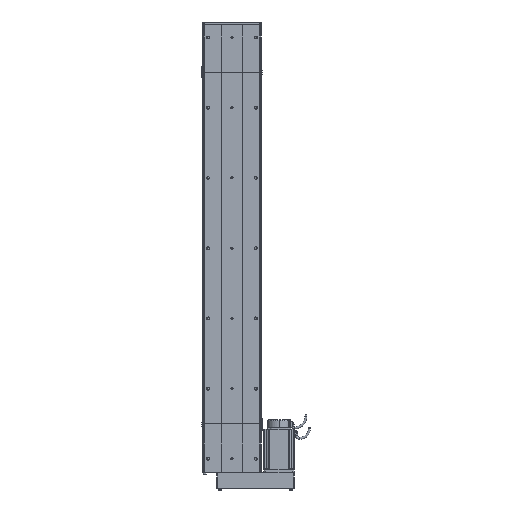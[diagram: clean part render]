
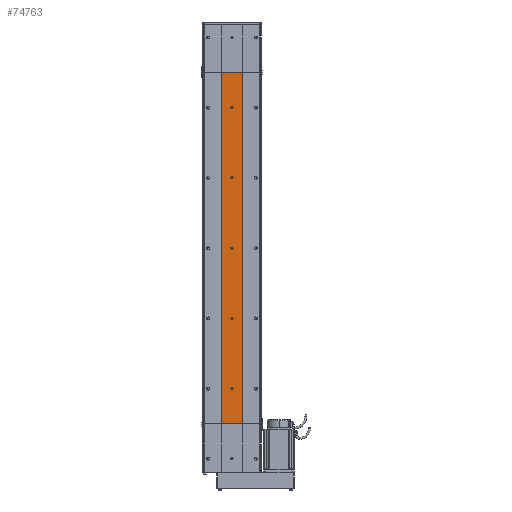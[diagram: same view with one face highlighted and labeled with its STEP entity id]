
A CAD part, front view. The second image highlights one B-rep face of the part: STEP entity #74763.
In plain terms, the highlighted planar face has unit normal (0, -1, 0).
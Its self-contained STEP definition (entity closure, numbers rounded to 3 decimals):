
#554 = EDGE_CURVE ( 'NONE', #36660, #72222, #41937, .T. ) ;
#663 = ORIENTED_EDGE ( 'NONE', *, *, #37042, .F. ) ;
#703 = VECTOR ( 'NONE', #712, 1000. ) ;
#705 = LINE ( 'NONE', #713, #703 ) ;
#712 = DIRECTION ( 'NONE',  ( -1., 0., 0. ) ) ;
#713 = CARTESIAN_POINT ( 'NONE',  ( -30., -32.5, 0. ) ) ;
#736 = CARTESIAN_POINT ( 'NONE',  ( -30., -32.5, 0. ) ) ;
#3801 = VERTEX_POINT ( 'NONE', #43499 ) ;
#3816 = VERTEX_POINT ( 'NONE', #43471 ) ;
#23443 = AXIS2_PLACEMENT_3D ( 'NONE', #23563, #23533, #23531 ) ;
#23448 = DIRECTION ( 'NONE',  ( 0., 0., -1. ) ) ;
#23453 = CARTESIAN_POINT ( 'NONE',  ( 0., -32.5, 697. ) ) ;
#23467 = CIRCLE ( 'NONE', #23478, 3. ) ;
#23478 = AXIS2_PLACEMENT_3D ( 'NONE', #23481, #23492, #23448 ) ;
#23481 = CARTESIAN_POINT ( 'NONE',  ( 0., -32.5, 700. ) ) ;
#23492 = DIRECTION ( 'NONE',  ( 0., -1., 0. ) ) ;
#23508 = CARTESIAN_POINT ( 'NONE',  ( 0., -32.5, 903. ) ) ;
#23528 = CARTESIAN_POINT ( 'NONE',  ( 0., -32.5, 703. ) ) ;
#23531 = DIRECTION ( 'NONE',  ( 0., 0., -1. ) ) ;
#23533 = DIRECTION ( 'NONE',  ( 0., -1., 0. ) ) ;
#23548 = CIRCLE ( 'NONE', #23443, 3. ) ;
#23563 = CARTESIAN_POINT ( 'NONE',  ( 0., -32.5, 900. ) ) ;
#23624 = CARTESIAN_POINT ( 'NONE',  ( 0., -32.5, 897. ) ) ;
#23696 = DIRECTION ( 'NONE',  ( 0., 0., -1. ) ) ;
#23697 = DIRECTION ( 'NONE',  ( 0., -1., 0. ) ) ;
#23701 = CIRCLE ( 'NONE', #23710, 3. ) ;
#23708 = CARTESIAN_POINT ( 'NONE',  ( 0., -32.5, 297. ) ) ;
#23710 = AXIS2_PLACEMENT_3D ( 'NONE', #23728, #23697, #23696 ) ;
#23728 = CARTESIAN_POINT ( 'NONE',  ( 0., -32.5, 300. ) ) ;
#23745 = CARTESIAN_POINT ( 'NONE',  ( 0., -32.5, 303. ) ) ;
#24430 = DIRECTION ( 'NONE',  ( 0., 0., -1. ) ) ;
#24432 = DIRECTION ( 'NONE',  ( 0., -1., 0. ) ) ;
#24434 = AXIS2_PLACEMENT_3D ( 'NONE', #24445, #24432, #24430 ) ;
#24436 = CIRCLE ( 'NONE', #24434, 3. ) ;
#24444 = CARTESIAN_POINT ( 'NONE',  ( 0., -32.5, 97. ) ) ;
#24445 = CARTESIAN_POINT ( 'NONE',  ( 0., -32.5, 100. ) ) ;
#24450 = CARTESIAN_POINT ( 'NONE',  ( 0., -32.5, 103. ) ) ;
#36660 = VERTEX_POINT ( 'NONE', #76155 ) ;
#37042 = EDGE_CURVE ( 'NONE', #36660, #37064, #705, .T. ) ;
#37064 = VERTEX_POINT ( 'NONE', #736 ) ;
#41934 = DIRECTION ( 'NONE',  ( 0., 0., 1. ) ) ;
#41935 = VECTOR ( 'NONE', #41934, 1000. ) ;
#41936 = CARTESIAN_POINT ( 'NONE',  ( 30., -32.5, 0. ) ) ;
#41937 = LINE ( 'NONE', #41936, #41935 ) ;
#43471 = CARTESIAN_POINT ( 'NONE',  ( 0., -32.5, 497. ) ) ;
#43499 = CARTESIAN_POINT ( 'NONE',  ( 0., -32.5, 503. ) ) ;
#45300 = EDGE_CURVE ( 'NONE', #72222, #45447, #52441, .T. ) ;
#45447 = VERTEX_POINT ( 'NONE', #52429 ) ;
#48581 = CARTESIAN_POINT ( 'NONE',  ( -30., -32.5, 0. ) ) ;
#48582 = LINE ( 'NONE', #48581, #48618 ) ;
#48583 = PLANE ( 'NONE',  #48658 ) ;
#48589 = CARTESIAN_POINT ( 'NONE',  ( 30., -32.5, 1000. ) ) ;
#48602 = CIRCLE ( 'NONE', #48646, 3. ) ;
#48603 = FACE_OUTER_BOUND ( 'NONE', #75945, .T. ) ;
#48604 = FACE_BOUND ( 'NONE', #72796, .T. ) ;
#48607 = FACE_BOUND ( 'NONE', #74770, .T. ) ;
#48608 = CIRCLE ( 'NONE', #48650, 3. ) ;
#48609 = FACE_BOUND ( 'NONE', #74929, .T. ) ;
#48612 = DIRECTION ( 'NONE',  ( 0., 0., -1. ) ) ;
#48613 = DIRECTION ( 'NONE',  ( 0., -1., 0. ) ) ;
#48614 = CARTESIAN_POINT ( 'NONE',  ( 0., -32.5, 900. ) ) ;
#48615 = AXIS2_PLACEMENT_3D ( 'NONE', #48614, #48613, #48612 ) ;
#48616 = FACE_BOUND ( 'NONE', #74774, .T. ) ;
#48617 = DIRECTION ( 'NONE',  ( 0., 0., 1. ) ) ;
#48618 = VECTOR ( 'NONE', #48617, 1000. ) ;
#48619 = FACE_BOUND ( 'NONE', #72877, .T. ) ;
#48628 = CIRCLE ( 'NONE', #48615, 3. ) ;
#48635 = AXIS2_PLACEMENT_3D ( 'NONE', #48681, #48680, #48679 ) ;
#48638 = DIRECTION ( 'NONE',  ( 0., 0., -1. ) ) ;
#48639 = DIRECTION ( 'NONE',  ( 0., -1., 0. ) ) ;
#48643 = CARTESIAN_POINT ( 'NONE',  ( 0., -32.5, 500. ) ) ;
#48646 = AXIS2_PLACEMENT_3D ( 'NONE', #48643, #48639, #48638 ) ;
#48648 = DIRECTION ( 'NONE',  ( 0., 0., -1. ) ) ;
#48649 = DIRECTION ( 'NONE',  ( 0., -1., 0. ) ) ;
#48650 = AXIS2_PLACEMENT_3D ( 'NONE', #48656, #48649, #48648 ) ;
#48653 = DIRECTION ( 'NONE',  ( 0., 0., 1. ) ) ;
#48654 = DIRECTION ( 'NONE',  ( 0., 1., 0. ) ) ;
#48655 = CARTESIAN_POINT ( 'NONE',  ( -30., -32.5, 0. ) ) ;
#48656 = CARTESIAN_POINT ( 'NONE',  ( 0., -32.5, 700. ) ) ;
#48658 = AXIS2_PLACEMENT_3D ( 'NONE', #48655, #48654, #48653 ) ;
#48673 = DIRECTION ( 'NONE',  ( 0., 0., -1. ) ) ;
#48674 = DIRECTION ( 'NONE',  ( 0., -1., 0. ) ) ;
#48675 = CARTESIAN_POINT ( 'NONE',  ( 0., -32.5, 300. ) ) ;
#48676 = AXIS2_PLACEMENT_3D ( 'NONE', #48675, #48674, #48673 ) ;
#48677 = CIRCLE ( 'NONE', #48676, 3. ) ;
#48679 = DIRECTION ( 'NONE',  ( 0., 0., -1. ) ) ;
#48680 = DIRECTION ( 'NONE',  ( 0., -1., 0. ) ) ;
#48681 = CARTESIAN_POINT ( 'NONE',  ( 0., -32.5, 100. ) ) ;
#48684 = CIRCLE ( 'NONE', #48635, 3. ) ;
#52429 = CARTESIAN_POINT ( 'NONE',  ( -30., -32.5, 1000. ) ) ;
#52438 = DIRECTION ( 'NONE',  ( -1., 0., 0. ) ) ;
#52439 = VECTOR ( 'NONE', #52438, 1000. ) ;
#52440 = CARTESIAN_POINT ( 'NONE',  ( -30., -32.5, 1000. ) ) ;
#52441 = LINE ( 'NONE', #52440, #52439 ) ;
#57114 = ORIENTED_EDGE ( 'NONE', *, *, #58877, .F. ) ;
#57816 = EDGE_CURVE ( 'NONE', #3801, #3816, #71517, .T. ) ;
#58815 = EDGE_CURVE ( 'NONE', #58827, #58826, #23467, .T. ) ;
#58825 = EDGE_CURVE ( 'NONE', #58834, #58843, #23548, .T. ) ;
#58826 = VERTEX_POINT ( 'NONE', #23453 ) ;
#58827 = VERTEX_POINT ( 'NONE', #23528 ) ;
#58834 = VERTEX_POINT ( 'NONE', #23508 ) ;
#58843 = VERTEX_POINT ( 'NONE', #23624 ) ;
#58869 = VERTEX_POINT ( 'NONE', #23745 ) ;
#58875 = VERTEX_POINT ( 'NONE', #23708 ) ;
#58877 = EDGE_CURVE ( 'NONE', #58869, #58875, #23701, .T. ) ;
#59042 = VERTEX_POINT ( 'NONE', #24444 ) ;
#59043 = EDGE_CURVE ( 'NONE', #59044, #59042, #24436, .T. ) ;
#59044 = VERTEX_POINT ( 'NONE', #24450 ) ;
#71517 = CIRCLE ( 'NONE', #71546, 3. ) ;
#71543 = DIRECTION ( 'NONE',  ( 0., 0., -1. ) ) ;
#71544 = DIRECTION ( 'NONE',  ( 0., -1., 0. ) ) ;
#71545 = CARTESIAN_POINT ( 'NONE',  ( 0., -32.5, 500. ) ) ;
#71546 = AXIS2_PLACEMENT_3D ( 'NONE', #71545, #71544, #71543 ) ;
#72222 = VERTEX_POINT ( 'NONE', #48589 ) ;
#72796 = EDGE_LOOP ( 'NONE', ( #72881, #74766 ) ) ;
#72876 = ORIENTED_EDGE ( 'NONE', *, *, #74924, .F. ) ;
#72877 = EDGE_LOOP ( 'NONE', ( #72876, #75899 ) ) ;
#72881 = ORIENTED_EDGE ( 'NONE', *, *, #73171, .F. ) ;
#73171 = EDGE_CURVE ( 'NONE', #58843, #58834, #48628, .T. ) ;
#73182 = ORIENTED_EDGE ( 'NONE', *, *, #74768, .F. ) ;
#73581 = EDGE_CURVE ( 'NONE', #37064, #45447, #48582, .T. ) ;
#74763 = ADVANCED_FACE ( 'NONE', ( #48604, #48616, #48619, #48607, #48609, #48603 ), #48583, .F. ) ;
#74766 = ORIENTED_EDGE ( 'NONE', *, *, #58825, .F. ) ;
#74768 = EDGE_CURVE ( 'NONE', #58826, #58827, #48608, .T. ) ;
#74770 = EDGE_LOOP ( 'NONE', ( #74771, #57114 ) ) ;
#74771 = ORIENTED_EDGE ( 'NONE', *, *, #75889, .F. ) ;
#74774 = EDGE_LOOP ( 'NONE', ( #73182, #74923 ) ) ;
#74923 = ORIENTED_EDGE ( 'NONE', *, *, #58815, .F. ) ;
#74924 = EDGE_CURVE ( 'NONE', #3816, #3801, #48602, .T. ) ;
#74929 = EDGE_LOOP ( 'NONE', ( #75841, #75894 ) ) ;
#75543 = ORIENTED_EDGE ( 'NONE', *, *, #45300, .T. ) ;
#75841 = ORIENTED_EDGE ( 'NONE', *, *, #75877, .F. ) ;
#75875 = ORIENTED_EDGE ( 'NONE', *, *, #73581, .F. ) ;
#75877 = EDGE_CURVE ( 'NONE', #59042, #59044, #48684, .T. ) ;
#75882 = ORIENTED_EDGE ( 'NONE', *, *, #554, .T. ) ;
#75889 = EDGE_CURVE ( 'NONE', #58875, #58869, #48677, .T. ) ;
#75894 = ORIENTED_EDGE ( 'NONE', *, *, #59043, .F. ) ;
#75899 = ORIENTED_EDGE ( 'NONE', *, *, #57816, .F. ) ;
#75945 = EDGE_LOOP ( 'NONE', ( #75543, #75875, #663, #75882 ) ) ;
#76155 = CARTESIAN_POINT ( 'NONE',  ( 30., -32.5, 0. ) ) ;
